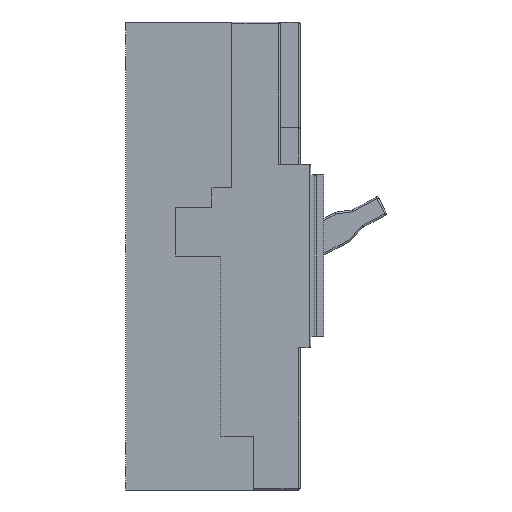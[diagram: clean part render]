
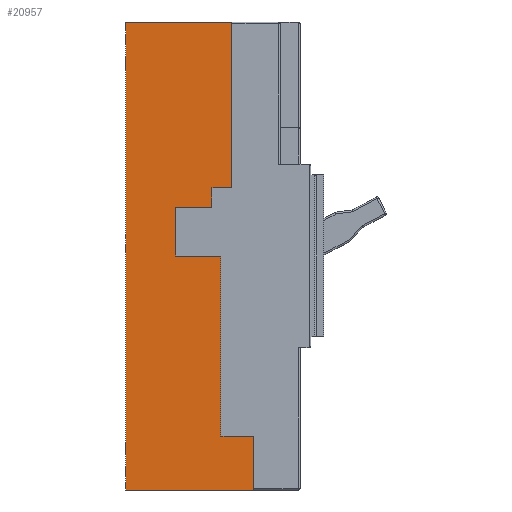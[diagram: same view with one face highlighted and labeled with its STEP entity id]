
A CAD part, left-side view. The second image highlights one B-rep face of the part: STEP entity #20957.
In plain terms, the highlighted planar face has unit normal (-1, 0, 0).
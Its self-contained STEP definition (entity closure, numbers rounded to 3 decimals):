
#7054=DIRECTION('',(0.,1.,0.));
#7055=VECTOR('',#7054,71.);
#7056=CARTESIAN_POINT('',(-70.2,-22.5,-130.));
#7057=LINE('',#7056,#7055);
#7058=DIRECTION('',(0.,0.,1.));
#7059=VECTOR('',#7058,260.);
#7060=CARTESIAN_POINT('',(-70.2,48.5,-130.));
#7061=LINE('',#7060,#7059);
#7062=DIRECTION('',(0.,-1.,0.));
#7063=VECTOR('',#7062,59.);
#7064=CARTESIAN_POINT('',(-70.2,48.5,130.));
#7065=LINE('',#7064,#7063);
#7066=DIRECTION('',(0.,0.,-1.));
#7067=VECTOR('',#7066,92.);
#7068=CARTESIAN_POINT('',(-70.2,-10.5,130.));
#7069=LINE('',#7068,#7067);
#7070=DIRECTION('',(0.,1.,0.));
#7071=VECTOR('',#7070,11.);
#7072=CARTESIAN_POINT('',(-70.2,-10.5,38.));
#7073=LINE('',#7072,#7071);
#7074=DIRECTION('',(0.,0.,-1.));
#7075=VECTOR('',#7074,11.);
#7076=CARTESIAN_POINT('',(-70.2,0.5,38.));
#7077=LINE('',#7076,#7075);
#7078=DIRECTION('',(0.,1.,0.));
#7079=VECTOR('',#7078,20.);
#7080=CARTESIAN_POINT('',(-70.2,0.5,27.));
#7081=LINE('',#7080,#7079);
#7082=DIRECTION('',(0.,0.,-1.));
#7083=VECTOR('',#7082,27.);
#7084=CARTESIAN_POINT('',(-70.2,20.5,27.));
#7085=LINE('',#7084,#7083);
#7086=DIRECTION('',(0.,-1.,0.));
#7087=VECTOR('',#7086,25.);
#7088=CARTESIAN_POINT('',(-70.2,20.5,0.));
#7089=LINE('',#7088,#7087);
#7090=DIRECTION('',(0.,0.,-1.));
#7091=VECTOR('',#7090,100.);
#7092=CARTESIAN_POINT('',(-70.2,-4.5,0.));
#7093=LINE('',#7092,#7091);
#7094=DIRECTION('',(0.,-1.,0.));
#7095=VECTOR('',#7094,18.);
#7096=CARTESIAN_POINT('',(-70.2,-4.5,-100.));
#7097=LINE('',#7096,#7095);
#7098=DIRECTION('',(0.,0.,-1.));
#7099=VECTOR('',#7098,30.);
#7100=CARTESIAN_POINT('',(-70.2,-22.5,-100.));
#7101=LINE('',#7100,#7099);
#10670=CARTESIAN_POINT('',(-70.2,-22.5,-130.));
#10671=CARTESIAN_POINT('',(-70.2,48.5,-130.));
#10672=VERTEX_POINT('',#10670);
#10673=VERTEX_POINT('',#10671);
#10674=CARTESIAN_POINT('',(-70.2,48.5,130.));
#10675=VERTEX_POINT('',#10674);
#10676=CARTESIAN_POINT('',(-70.2,-10.5,130.));
#10677=VERTEX_POINT('',#10676);
#10678=CARTESIAN_POINT('',(-70.2,-10.5,38.));
#10679=VERTEX_POINT('',#10678);
#10680=CARTESIAN_POINT('',(-70.2,0.5,38.));
#10681=VERTEX_POINT('',#10680);
#10682=CARTESIAN_POINT('',(-70.2,0.5,27.));
#10683=VERTEX_POINT('',#10682);
#10684=CARTESIAN_POINT('',(-70.2,20.5,27.));
#10685=VERTEX_POINT('',#10684);
#10686=CARTESIAN_POINT('',(-70.2,20.5,0.));
#10687=VERTEX_POINT('',#10686);
#10688=CARTESIAN_POINT('',(-70.2,-4.5,0.));
#10689=VERTEX_POINT('',#10688);
#10690=CARTESIAN_POINT('',(-70.2,-4.5,-100.));
#10691=VERTEX_POINT('',#10690);
#10692=CARTESIAN_POINT('',(-70.2,-22.5,-100.));
#10693=VERTEX_POINT('',#10692);
#20930=CARTESIAN_POINT('',(-70.2,0.,0.));
#20931=DIRECTION('',(1.,0.,0.));
#20932=DIRECTION('',(0.,0.,1.));
#20933=AXIS2_PLACEMENT_3D('',#20930,#20931,#20932);
#20934=PLANE('',#20933);
#20935=ORIENTED_EDGE('',*,*,#19442,.T.);
#20936=ORIENTED_EDGE('',*,*,#18671,.T.);
#20937=ORIENTED_EDGE('',*,*,#18390,.T.);
#20939=ORIENTED_EDGE('',*,*,#20938,.T.);
#20941=ORIENTED_EDGE('',*,*,#20940,.T.);
#20943=ORIENTED_EDGE('',*,*,#20942,.T.);
#20945=ORIENTED_EDGE('',*,*,#20944,.T.);
#20947=ORIENTED_EDGE('',*,*,#20946,.T.);
#20949=ORIENTED_EDGE('',*,*,#20948,.T.);
#20951=ORIENTED_EDGE('',*,*,#20950,.T.);
#20953=ORIENTED_EDGE('',*,*,#20952,.T.);
#20954=ORIENTED_EDGE('',*,*,#20923,.T.);
#20955=EDGE_LOOP('',(#20935,#20936,#20937,#20939,#20941,#20943,#20945,#20947,
#20949,#20951,#20953,#20954));
#20956=FACE_OUTER_BOUND('',#20955,.F.);
#18390=EDGE_CURVE('',#10675,#10677,#7065,.T.);
#18671=EDGE_CURVE('',#10673,#10675,#7061,.T.);
#19442=EDGE_CURVE('',#10672,#10673,#7057,.T.);
#20923=EDGE_CURVE('',#10693,#10672,#7101,.T.);
#20938=EDGE_CURVE('',#10677,#10679,#7069,.T.);
#20940=EDGE_CURVE('',#10679,#10681,#7073,.T.);
#20942=EDGE_CURVE('',#10681,#10683,#7077,.T.);
#20944=EDGE_CURVE('',#10683,#10685,#7081,.T.);
#20946=EDGE_CURVE('',#10685,#10687,#7085,.T.);
#20948=EDGE_CURVE('',#10687,#10689,#7089,.T.);
#20950=EDGE_CURVE('',#10689,#10691,#7093,.T.);
#20952=EDGE_CURVE('',#10691,#10693,#7097,.T.);
#20957=ADVANCED_FACE('',(#20956),#20934,.F.);
